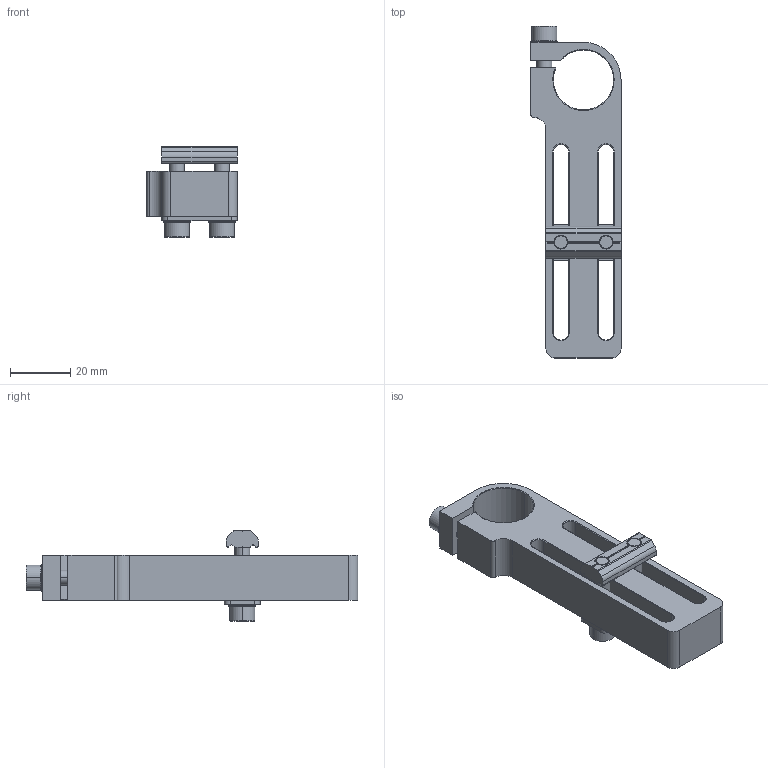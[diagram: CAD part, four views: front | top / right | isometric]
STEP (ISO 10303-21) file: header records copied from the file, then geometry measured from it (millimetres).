
FILE_DESCRIPTION (( 'STEP AP214' ), '1' );
FILE_NAME ('SMBE2-2060.STEP', '2019-11-01T01:21:23', ( '微软用户' ), ( '微软中国' ), 'SwSTEP 2.0', 'SolidWorks 2016', '' );
FILE_SCHEMA (( 'AUTOMOTIVE_DESIGN' ));
Length unit declared in the file: millimetre
Products named in the file (6): PTS-M5; PTN-M5P15; PTD-M5P15; PTC-M5L25; SMBE2-2060
Assembly tree (9 placements, depth 2):
  SMBE2-2060
    SMBE2-2060
    PTC-M5L25  x3
    PTD-M5P15
    PTN-M5P15
    PTS-M5  x3
Bounding box: 30 x 110.45 x 30 mm (x, y, z)
Volume: 29168 mm3; surface area: 16706.6 mm2
Topology: 9 solids, 9 shells, 672 faces, 1932 edges, 1273 vertices
Faces by surface type: plane 566, cylinder 70, cone 36
Entity records: 10318 total; most frequent: CARTESIAN_POINT 1947, DIRECTION 1740, ORIENTED_EDGE 1724, EDGE_CURVE 862, AXIS2_PLACEMENT_3D 598, VERTEX_POINT 565, LINE 544, VECTOR 544
